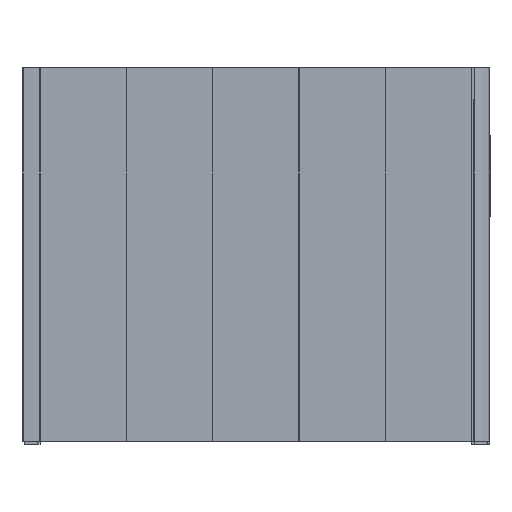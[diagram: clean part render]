
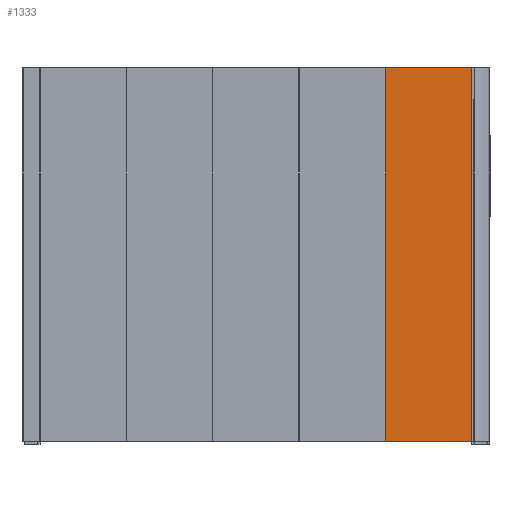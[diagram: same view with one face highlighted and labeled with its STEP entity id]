
A CAD part, left-side view. The second image highlights one B-rep face of the part: STEP entity #1333.
In plain terms, the highlighted planar face has unit normal (-1, 0, 0) as drawn and (1, 0, 0) by its records, which use the part's own axes.
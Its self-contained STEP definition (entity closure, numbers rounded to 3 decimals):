
#1333=ADVANCED_FACE('',(#1921),#9006,.T.);
#1921=FACE_OUTER_BOUND('',#2519,.T.);
#2519=EDGE_LOOP('',(#4991,#4992,#4993,#4994));
#4991=ORIENTED_EDGE('',*,*,#6356,.T.);
#4992=ORIENTED_EDGE('',*,*,#6357,.T.);
#4993=ORIENTED_EDGE('',*,*,#6358,.F.);
#4994=ORIENTED_EDGE('',*,*,#6354,.F.);
#6354=EDGE_CURVE('',#8440,#8441,#7533,.T.);
#6356=EDGE_CURVE('',#8440,#8442,#7535,.T.);
#6357=EDGE_CURVE('',#8442,#8443,#7536,.T.);
#6358=EDGE_CURVE('',#8441,#8443,#7537,.T.);
#7533=B_SPLINE_CURVE_WITH_KNOTS('',1,(#16452,#16453),.UNSPECIFIED.,.F.,
 .F.,(2,2),(0.,2600.),.UNSPECIFIED.);
#7535=B_SPLINE_CURVE_WITH_KNOTS('',1,(#16456,#16457),.UNSPECIFIED.,.F.,
 .F.,(2,2),(608.,1204.),.UNSPECIFIED.);
#7536=B_SPLINE_CURVE_WITH_KNOTS('',1,(#16458,#16459),.UNSPECIFIED.,.F.,
 .F.,(2,2),(0.,2600.),.UNSPECIFIED.);
#7537=B_SPLINE_CURVE_WITH_KNOTS('',1,(#16460,#16461),.UNSPECIFIED.,.F.,
 .F.,(2,2),(608.,1204.),.UNSPECIFIED.);
#8440=VERTEX_POINT('',#16438);
#8441=VERTEX_POINT('',#16439);
#8442=VERTEX_POINT('',#16440);
#8443=VERTEX_POINT('',#16441);
#9006=PLANE('',#11297);
#11297=AXIS2_PLACEMENT_3D('',#16430,#12208,$);
#12208=DIRECTION('',(1.,0.,0.));
#16430=CARTESIAN_POINT('',(-242.,130.,18.));
#16438=CARTESIAN_POINT('',(-242.,130.,18.));
#16439=CARTESIAN_POINT('',(-242.,130.,2618.));
#16440=CARTESIAN_POINT('',(-242.,726.,18.));
#16441=CARTESIAN_POINT('',(-242.,726.,2618.));
#16452=CARTESIAN_POINT('',(-242.,130.,18.));
#16453=CARTESIAN_POINT('',(-242.,130.,2618.));
#16456=CARTESIAN_POINT('',(-242.,130.,18.));
#16457=CARTESIAN_POINT('',(-242.,726.,18.));
#16458=CARTESIAN_POINT('',(-242.,726.,18.));
#16459=CARTESIAN_POINT('',(-242.,726.,2618.));
#16460=CARTESIAN_POINT('',(-242.,130.,2618.));
#16461=CARTESIAN_POINT('',(-242.,726.,2618.));
